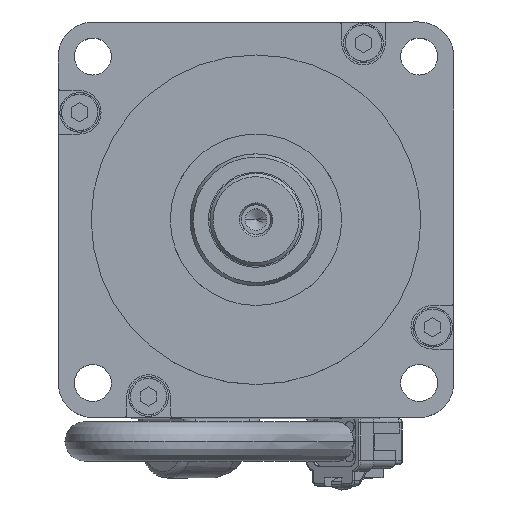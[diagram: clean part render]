
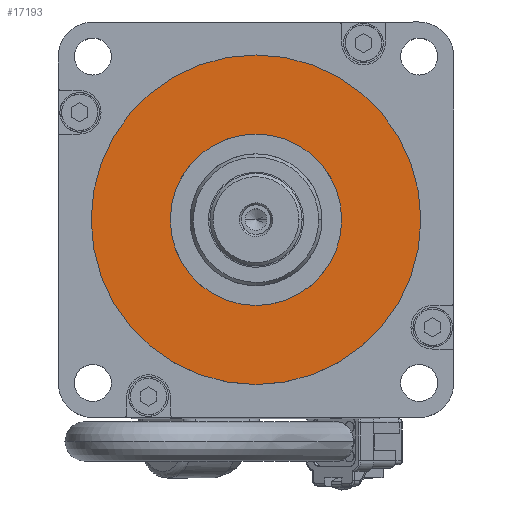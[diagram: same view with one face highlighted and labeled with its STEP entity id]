
A CAD part, top view. The second image highlights one B-rep face of the part: STEP entity #17193.
In plain terms, the highlighted planar face has unit normal (0, 0, 1).
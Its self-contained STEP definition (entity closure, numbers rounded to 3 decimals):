
#10 = ORIENTED_EDGE ( 'NONE', *, *, #7542, .T. ) ;
#192 = PLANE ( 'NONE',  #9653 ) ;
#709 = DIRECTION ( 'NONE',  ( 0., 0., -1. ) ) ;
#926 = CARTESIAN_POINT ( 'NONE',  ( 0., 0., 3. ) ) ;
#2243 = DIRECTION ( 'NONE',  ( 0., 0., 1. ) ) ;
#2718 = DIRECTION ( 'NONE',  ( 0., 0., -1. ) ) ;
#3890 = CARTESIAN_POINT ( 'NONE',  ( 0., 0., 3. ) ) ;
#4269 = CARTESIAN_POINT ( 'NONE',  ( 0., 0., 3. ) ) ;
#6827 = CARTESIAN_POINT ( 'NONE',  ( 25., 0., 3. ) ) ;
#7542 = EDGE_CURVE ( 'NONE', #20341, #15615, #19854, .T. ) ;
#8514 = CARTESIAN_POINT ( 'NONE',  ( 0., 0., 3. ) ) ;
#8673 = EDGE_LOOP ( 'NONE', ( #17577, #21140 ) ) ;
#9223 = CARTESIAN_POINT ( 'NONE',  ( -13., 0., 3. ) ) ;
#9312 = CIRCLE ( 'NONE', #19958, 25. ) ;
#9653 = AXIS2_PLACEMENT_3D ( 'NONE', #23627, #2243, #18101 ) ;
#10524 = DIRECTION ( 'NONE',  ( -1., 0., 0. ) ) ;
#12590 = VERTEX_POINT ( 'NONE', #6827 ) ;
#12766 = ORIENTED_EDGE ( 'NONE', *, *, #24292, .T. ) ;
#14006 = DIRECTION ( 'NONE',  ( 0., 0., -1. ) ) ;
#14270 = CIRCLE ( 'NONE', #18743, 25. ) ;
#15615 = VERTEX_POINT ( 'NONE', #17737 ) ;
#16429 = AXIS2_PLACEMENT_3D ( 'NONE', #3890, #21058, #25038 ) ;
#17193 = ADVANCED_FACE ( 'NONE', ( #19901, #23499 ), #192, .T. ) ;
#17194 = CARTESIAN_POINT ( 'NONE',  ( -25., 0., 3. ) ) ;
#17393 = AXIS2_PLACEMENT_3D ( 'NONE', #926, #2718, #10524 ) ;
#17577 = ORIENTED_EDGE ( 'NONE', *, *, #22386, .F. ) ;
#17737 = CARTESIAN_POINT ( 'NONE',  ( 13., 0., 3. ) ) ;
#18101 = DIRECTION ( 'NONE',  ( 1., 0., 0. ) ) ;
#18106 = DIRECTION ( 'NONE',  ( -1., 0., 0. ) ) ;
#18743 = AXIS2_PLACEMENT_3D ( 'NONE', #4269, #14006, #22078 ) ;
#19854 = CIRCLE ( 'NONE', #17393, 13. ) ;
#19901 = FACE_OUTER_BOUND ( 'NONE', #8673, .T. ) ;
#19958 = AXIS2_PLACEMENT_3D ( 'NONE', #8514, #709, #18106 ) ;
#20341 = VERTEX_POINT ( 'NONE', #9223 ) ;
#20546 = EDGE_LOOP ( 'NONE', ( #10, #12766 ) ) ;
#21058 = DIRECTION ( 'NONE',  ( 0., 0., -1. ) ) ;
#21140 = ORIENTED_EDGE ( 'NONE', *, *, #21454, .F. ) ;
#21375 = CIRCLE ( 'NONE', #16429, 13. ) ;
#21454 = EDGE_CURVE ( 'NONE', #12590, #22263, #9312, .T. ) ;
#22078 = DIRECTION ( 'NONE',  ( -1., 0., 0. ) ) ;
#22263 = VERTEX_POINT ( 'NONE', #17194 ) ;
#22386 = EDGE_CURVE ( 'NONE', #22263, #12590, #14270, .T. ) ;
#23499 = FACE_BOUND ( 'NONE', #20546, .T. ) ;
#23627 = CARTESIAN_POINT ( 'NONE',  ( 0., 0., 3. ) ) ;
#24292 = EDGE_CURVE ( 'NONE', #15615, #20341, #21375, .T. ) ;
#25038 = DIRECTION ( 'NONE',  ( -1., 0., 0. ) ) ;
